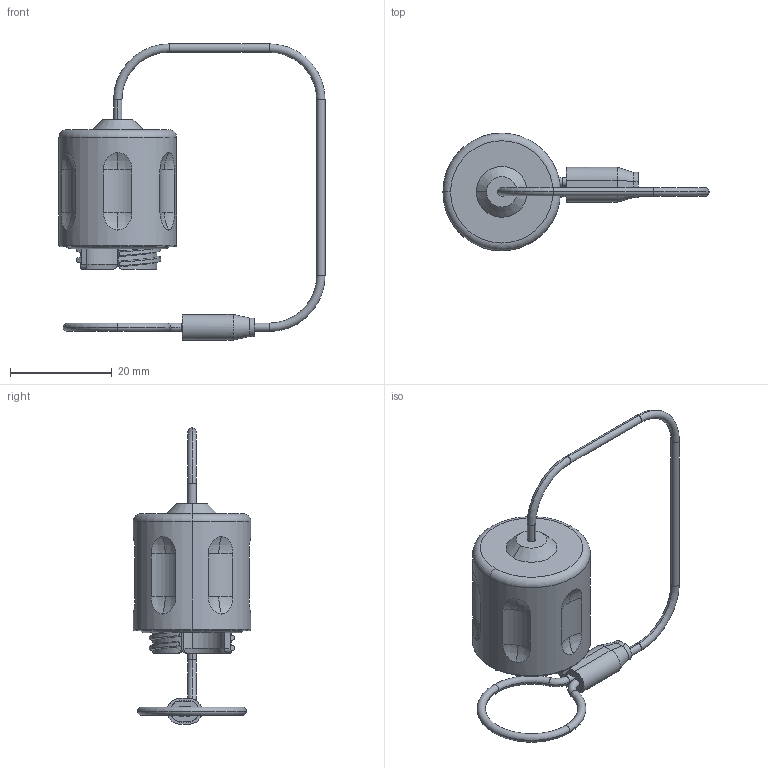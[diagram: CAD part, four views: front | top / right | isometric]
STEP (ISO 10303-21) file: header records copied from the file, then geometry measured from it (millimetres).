
FILE_DESCRIPTION (( 'STEP AP214' ), '1' );
FILE_NAME ('QMICRO-DCHRX.STEP', '2025-05-02T23:42:02', ( '' ), ( '' ), 'SwSTEP 2.0', 'SolidWorks 2024', '' );
FILE_SCHEMA (( 'AUTOMOTIVE_DESIGN' ));
Length unit declared in the file: inch
Products named in the file (1): QMICRO-DCHRX
Bounding box: 52.4 x 23.15 x 58.34 mm (x, y, z)
Volume: 9338.4 mm3; surface area: 6036.4 mm2
Topology: 4 solids, 4 shells, 203 faces, 494 edges, 310 vertices
Faces by surface type: cylinder 77, plane 41, torus 28, sphere 24, bspline 20, cone 13
Entity records: 9006 total; most frequent: CARTESIAN_POINT 4429, ORIENTED_EDGE 988, DIRECTION 903, EDGE_CURVE 494, AXIS2_PLACEMENT_3D 374, VERTEX_POINT 310, EDGE_LOOP 220, ADVANCED_FACE 203
